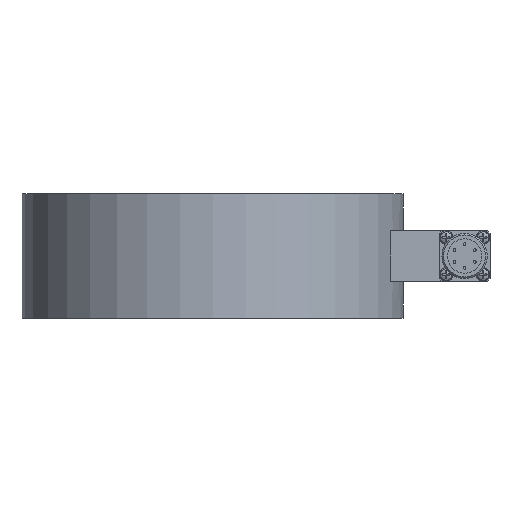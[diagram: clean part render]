
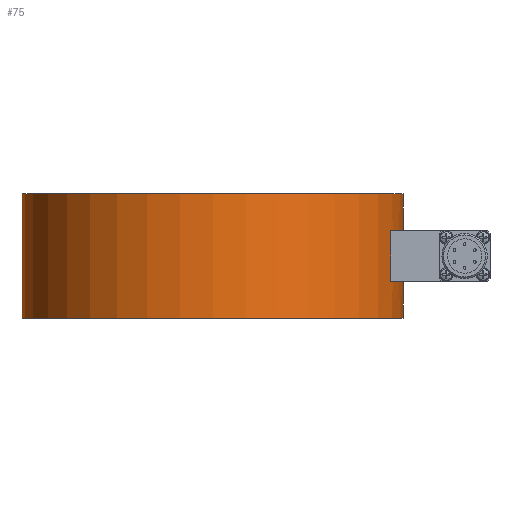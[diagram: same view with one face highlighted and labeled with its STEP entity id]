
A CAD part, front view. The second image highlights one B-rep face of the part: STEP entity #75.
In plain terms, the highlighted cylindrical face has radius 69.85 mm (diameter 139.7 mm), a partial arc.
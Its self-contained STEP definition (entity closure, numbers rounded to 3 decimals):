
#75=ADVANCED_FACE('',(#269),#270,.T.);
#269=FACE_OUTER_BOUND('',#694,.T.);
#270=CYLINDRICAL_SURFACE('',#695,69.85);
#694=EDGE_LOOP('',(#1119,#1120,#1121,#1122,#1123,#1124,#1125,#1126));
#695=AXIS2_PLACEMENT_3D('',#1127,#1128,#1129);
#1119=ORIENTED_EDGE('',*,*,#2626,.F.);
#1120=ORIENTED_EDGE('',*,*,#2627,.T.);
#1121=ORIENTED_EDGE('',*,*,#2628,.F.);
#1122=ORIENTED_EDGE('',*,*,#2629,.F.);
#1123=ORIENTED_EDGE('',*,*,#2630,.F.);
#1124=ORIENTED_EDGE('',*,*,#2631,.T.);
#1125=ORIENTED_EDGE('',*,*,#2632,.T.);
#1126=ORIENTED_EDGE('',*,*,#2633,.T.);
#1127=CARTESIAN_POINT('',(0.0,0.,22.85));
#1128=DIRECTION('',(0.0,0.,1.0));
#1129=DIRECTION('',(1.0,0.0,0.0));
#2626=EDGE_CURVE('',#3090,#3091,#3092,.T.);
#2627=EDGE_CURVE('',#3090,#3093,#3094,.T.);
#2628=EDGE_CURVE('',#3095,#3093,#3096,.T.);
#2629=EDGE_CURVE('',#3097,#3095,#3098,.T.);
#2630=EDGE_CURVE('',#3099,#3097,#3100,.T.);
#2631=EDGE_CURVE('',#3099,#3101,#3102,.T.);
#2632=EDGE_CURVE('',#3101,#3103,#3104,.T.);
#2633=EDGE_CURVE('',#3103,#3091,#3105,.T.);
#3090=VERTEX_POINT('',#3848);
#3091=VERTEX_POINT('',#3849);
#3092=LINE('',#3850,#3851);
#3093=VERTEX_POINT('',#3852);
#3094=CIRCLE('',#3853,69.85);
#3095=VERTEX_POINT('',#3854);
#3096=LINE('',#3855,#3856);
#3097=VERTEX_POINT('',#3857);
#3098=CIRCLE('',#3858,69.85);
#3099=VERTEX_POINT('',#3859);
#3100=LINE('',#3860,#3861);
#3101=VERTEX_POINT('',#3862);
#3102=CIRCLE('',#3863,69.85);
#3103=VERTEX_POINT('',#3864);
#3104=LINE('',#3865,#3866);
#3105=CIRCLE('',#3867,69.85);
#3848=CARTESIAN_POINT('',(69.85,0.,45.7));
#3849=CARTESIAN_POINT('',(69.85,0.,32.15));
#3850=CARTESIAN_POINT('',(69.85,0.,22.85));
#3851=VECTOR('',#5324,1.0);
#3852=CARTESIAN_POINT('',(-69.85,0.,45.7));
#3853=AXIS2_PLACEMENT_3D('',#5325,#5326,#5327);
#3854=CARTESIAN_POINT('',(-69.85,0.,0.));
#3855=CARTESIAN_POINT('',(-69.85,0.,22.85));
#3856=VECTOR('',#5328,1.0);
#3857=CARTESIAN_POINT('',(69.85,0.0,0.0));
#3858=AXIS2_PLACEMENT_3D('',#5329,#5330,#5331);
#3859=CARTESIAN_POINT('',(69.85,0.,13.55));
#3860=CARTESIAN_POINT('',(69.85,0.,22.85));
#3861=VECTOR('',#5332,1.0);
#3862=CARTESIAN_POINT('',(65.962,-22.978,13.55));
#3863=AXIS2_PLACEMENT_3D('',#5333,#5334,#5335);
#3864=CARTESIAN_POINT('',(65.962,-22.978,32.15));
#3865=CARTESIAN_POINT('',(65.962,-22.978,22.85));
#3866=VECTOR('',#5336,1.0);
#3867=AXIS2_PLACEMENT_3D('',#5337,#5338,#5339);
#5324=DIRECTION('',(0.0,0.,-1.0));
#5325=CARTESIAN_POINT('',(0.0,0.,45.7));
#5326=DIRECTION('',(0.0,0.,-1.0));
#5327=DIRECTION('',(1.0,0.0,0.0));
#5328=DIRECTION('',(0.0,0.,1.0));
#5329=CARTESIAN_POINT('',(0.0,0.0,0.0));
#5330=DIRECTION('',(0.0,0.,-1.0));
#5331=DIRECTION('',(1.0,0.0,0.0));
#5332=DIRECTION('',(0.0,0.,-1.0));
#5333=CARTESIAN_POINT('',(0.0,0.,13.55));
#5334=DIRECTION('',(0.,0.0,-1.0));
#5335=DIRECTION('',(1.0,0.0,0.));
#5336=DIRECTION('',(0.0,0.0,1.0));
#5337=CARTESIAN_POINT('',(0.0,0.,32.15));
#5338=DIRECTION('',(0.,0.0,1.0));
#5339=DIRECTION('',(1.0,0.0,0.));
